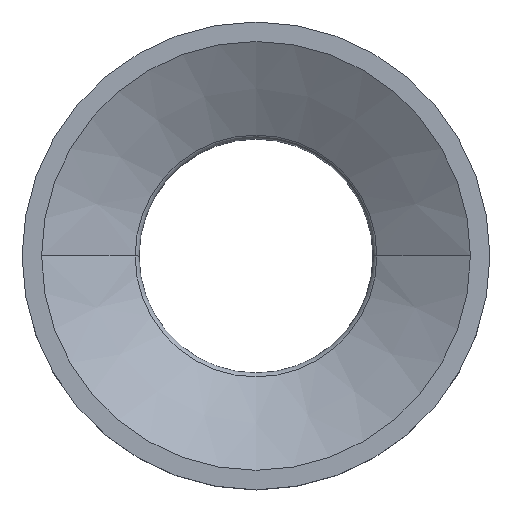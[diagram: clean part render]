
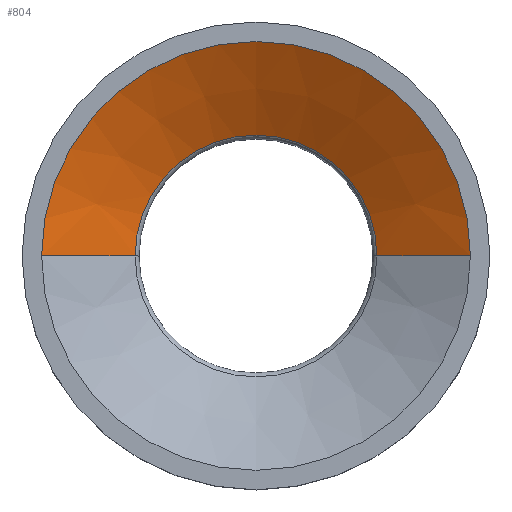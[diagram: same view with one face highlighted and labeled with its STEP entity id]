
A CAD part, top view. The second image highlights one B-rep face of the part: STEP entity #804.
In plain terms, the highlighted conical face has half-angle 60 degrees and reference radius 43 mm.
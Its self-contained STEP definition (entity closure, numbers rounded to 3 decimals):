
#112=DIRECTION('',(-0.866,0.,-0.5));
#113=VECTOR('',#112,27.713);
#114=CARTESIAN_POINT('',(55.,0.,30.));
#115=LINE('',#114,#113);
#116=CARTESIAN_POINT('',(0.,0.,16.144));
#117=DIRECTION('',(0.,0.,1.));
#118=DIRECTION('',(1.,0.,0.));
#119=AXIS2_PLACEMENT_3D('',#116,#117,#118);
#121=DIRECTION('',(0.866,0.,-0.5));
#122=VECTOR('',#121,27.713);
#123=CARTESIAN_POINT('',(-55.,0.,
30.));
#124=LINE('',#123,#122);
#140=CARTESIAN_POINT('',(0.,0.,30.));
#141=DIRECTION('',(0.,0.,-1.));
#142=DIRECTION('',(-1.,0.,0.));
#143=AXIS2_PLACEMENT_3D('',#140,#141,#142);
#519=CARTESIAN_POINT('',(55.,0.,
30.));
#520=CARTESIAN_POINT('',(-55.,0.,
30.));
#521=VERTEX_POINT('',#519);
#522=VERTEX_POINT('',#520);
#527=CARTESIAN_POINT('',(-31.,0.,
16.144));
#528=CARTESIAN_POINT('',(31.,0.,16.144));
#529=VERTEX_POINT('',#527);
#530=VERTEX_POINT('',#528);
#792=CARTESIAN_POINT('',(0.,0.,23.072));
#793=DIRECTION('',(0.,0.,1.));
#794=DIRECTION('',(0.,-1.,0.));
#795=AXIS2_PLACEMENT_3D('',#792,#793,#794);
#796=CONICAL_SURFACE('',#795,43.,60.);
#797=ORIENTED_EDGE('',*,*,#757,.T.);
#798=ORIENTED_EDGE('',*,*,#787,.F.);
#800=ORIENTED_EDGE('',*,*,#799,.T.);
#801=ORIENTED_EDGE('',*,*,#783,.T.);
#802=EDGE_LOOP('',(#797,#798,#800,#801));
#803=FACE_OUTER_BOUND('',#802,.F.);
#120=CIRCLE('',#119,31.);
#144=CIRCLE('',#143,55.);
#757=EDGE_CURVE('',#530,#529,#120,.T.);
#783=EDGE_CURVE('',#521,#530,#115,.T.);
#787=EDGE_CURVE('',#522,#529,#124,.T.);
#799=EDGE_CURVE('',#522,#521,#144,.T.);
#804=ADVANCED_FACE('',(#803),#796,.F.);
